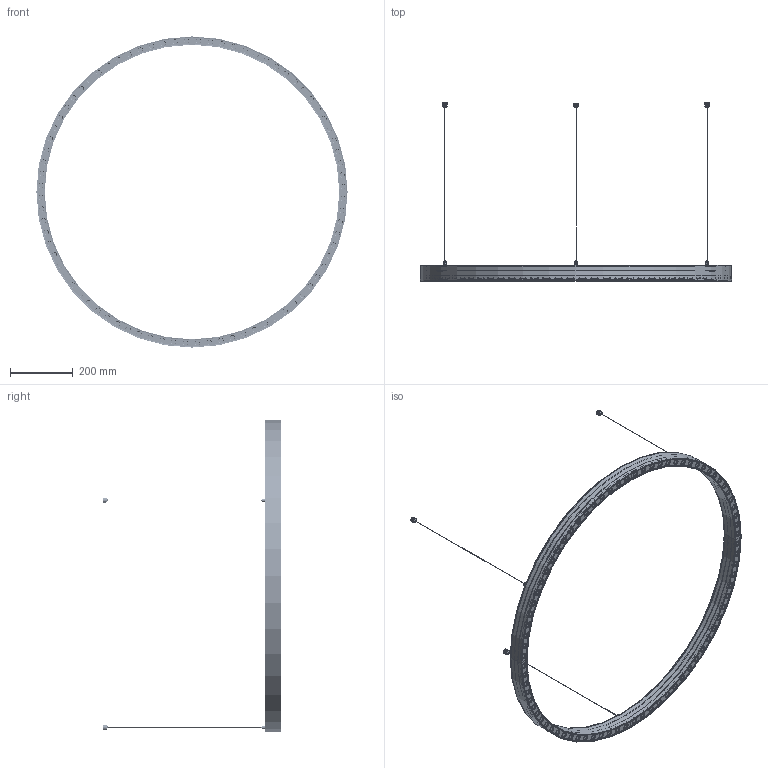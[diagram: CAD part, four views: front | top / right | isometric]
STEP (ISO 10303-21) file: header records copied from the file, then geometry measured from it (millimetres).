
FILE_DESCRIPTION (( 'STEP AP214' ), '1' );
FILE_NAME ('ZIRKOL UGR D995_rev1_SITO.STEP', '2024-02-23T14:14:50', ( '' ), ( '' ), 'SwSTEP 2.0', 'SolidWorks 2016', '' );
FILE_SCHEMA (( 'AUTOMOTIVE_DESIGN' ));
Length unit declared in the file: millimetre
Products named in the file (9): 0-CER-0995-0-00_rev0_SITO; 0-ZKR-0995-0-00_rev0_SITO; STRIPLED-995_rev0_SITO; ZIRKOL UGR D995_rev1_SITO; 1-MAS-0378-0-00 Rosone nichelato_SITO; 1-MAS-0380-0-00 Gripper_SITO; 1-MAS-0379-0-00 Attacco rosone_SITO; 0-MAS-0375-1-00 Cavetto inox_SITO; (Gripper+sospensione+rosoncino)_SITO
Assembly tree (14 placements, depth 3):
  ZIRKOL UGR D995_rev1_SITO
    STRIPLED-995_rev0_SITO  x2
    0-CER-0995-0-00_rev0_SITO
    0-ZKR-0995-0-00_rev0_SITO  x4
    (Gripper+sospensione+rosoncino)_SITO  x3
      1-MAS-0380-0-00 Gripper_SITO
      0-MAS-0375-1-00 Cavetto inox_SITO
      1-MAS-0379-0-00 Attacco rosone_SITO
      1-MAS-0378-0-00 Rosone nichelato_SITO
Bounding box: 994.7 x 569.88 x 994.7 mm (x, y, z)
Volume: 1590053.8 mm3; surface area: 1271351.8 mm2
Topology: 25 solids, 25 shells, 4374 faces, 13507 edges, 9260 vertices
Faces by surface type: plane 1821, cylinder 1572, bspline 817, cone 83, torus 81
Entity records: 134647 total; most frequent: CARTESIAN_POINT 76079, ORIENTED_EDGE 13150, DIRECTION 10494, EDGE_CURVE 6575, VERTEX_POINT 4518, AXIS2_PLACEMENT_3D 3654, LINE 3186, VECTOR 3186
